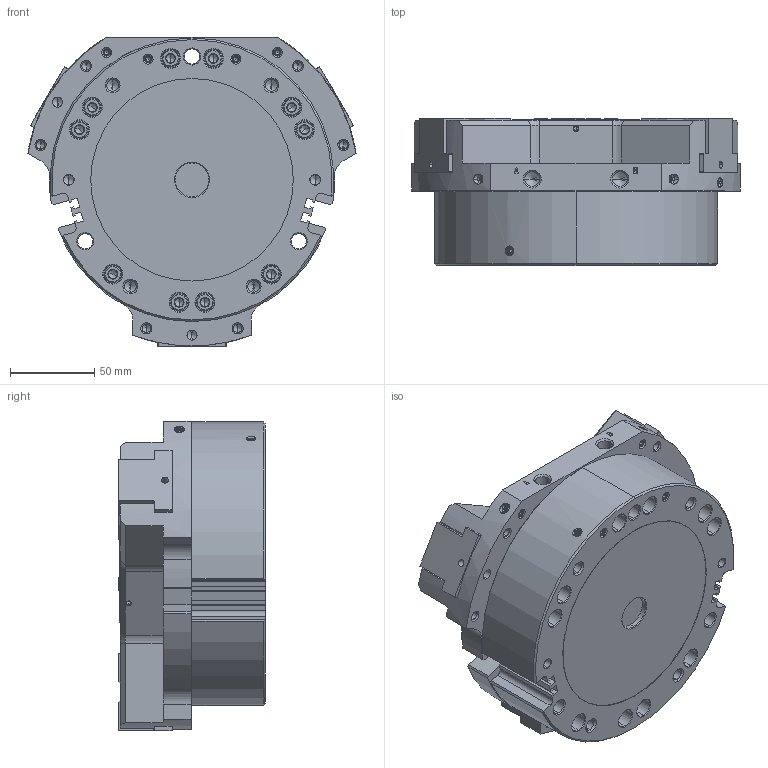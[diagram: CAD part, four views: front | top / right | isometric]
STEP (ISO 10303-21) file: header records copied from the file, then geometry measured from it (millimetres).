
FILE_DESCRIPTION (( 'STEP AP214' ), '1' );
FILE_NAME ('NTS317-UC.STEP', '2025-01-10T03:16:33', ( '' ), ( '' ), 'SwSTEP 2.0', 'SolidWorks 2022', '' );
FILE_SCHEMA (( 'AUTOMOTIVE_DESIGN' ));
Length unit declared in the file: millimetre
Products named in the file (8): COVER^HP-NTS317; BODY^HP-NTS317; S-TOME^HP-NTS317; MASTER JAW^HP-NTS317; BOLT^HP-NTS317; S-SARA^HP-NTS317; REAR BODY^HP-NTS317; NTS317-UC
Assembly tree (27 placements, depth 2):
  NTS317-UC
    BODY^HP-NTS317
    REAR BODY^HP-NTS317
    MASTER JAW^HP-NTS317  x3
    COVER^HP-NTS317
    BOLT^HP-NTS317  x10
    S-TOME^HP-NTS317  x8
    S-SARA^HP-NTS317  x3
Bounding box: 194.47 x 87 x 183.5 mm (x, y, z)
Volume: 1679726.5 mm3; surface area: 250689 mm2
Topology: 27 solids, 27 shells, 2145 faces, 5710 edges, 3643 vertices
Faces by surface type: plane 1349, cone 374, cylinder 311, bspline 105, torus 6
Entity records: 57670 total; most frequent: CARTESIAN_POINT 15237, ORIENTED_EDGE 8952, DIRECTION 7904, EDGE_CURVE 4476, LINE 3614, VECTOR 3614, VERTEX_POINT 2922, AXIS2_PLACEMENT_3D 2145
